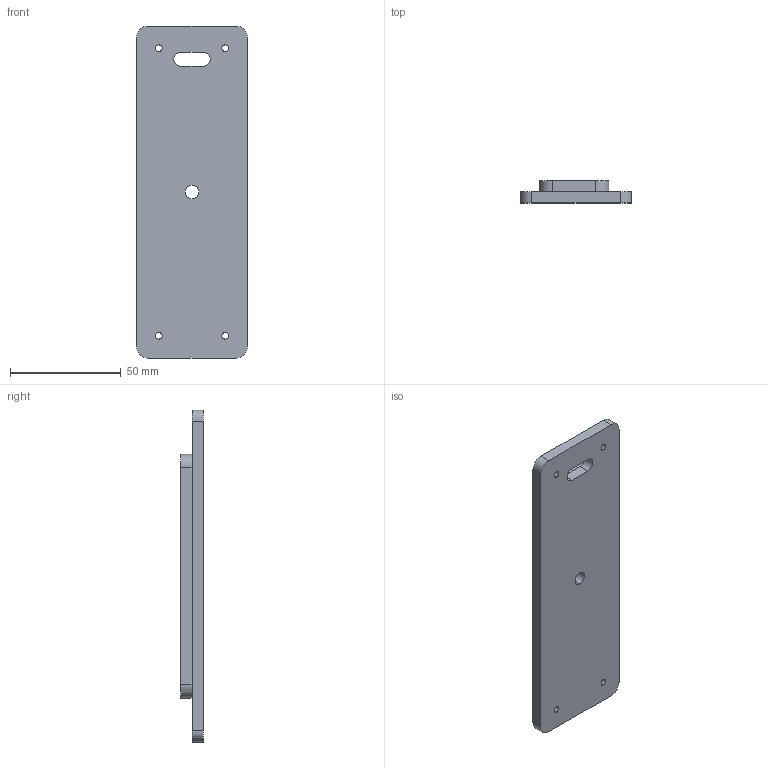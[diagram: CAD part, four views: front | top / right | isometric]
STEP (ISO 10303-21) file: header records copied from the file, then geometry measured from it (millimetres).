
FILE_DESCRIPTION (( 'STEP AP203' ), '1' );
FILE_NAME ('ga_do_Camera.STEP', '2026-06-04T16:44:29', ( '' ), ( '' ), 'SwSTEP 2.0', 'SolidWorks 2021', '' );
FILE_SCHEMA (( 'CONFIG_CONTROL_DESIGN' ));
Length unit declared in the file: millimetre
Products named in the file (1): ga_do_Camera
Bounding box: 50 x 10 x 150 mm (x, y, z)
Volume: 43084.9 mm3; surface area: 19644.1 mm2
Topology: 1 solids, 1 shells, 41 faces, 111 edges, 74 vertices
Faces by surface type: cylinder 23, plane 18
Entity records: 1412 total; most frequent: DIRECTION 241, CARTESIAN_POINT 227, ORIENTED_EDGE 222, EDGE_CURVE 111, AXIS2_PLACEMENT_3D 88, VERTEX_POINT 74, LINE 65, VECTOR 65
